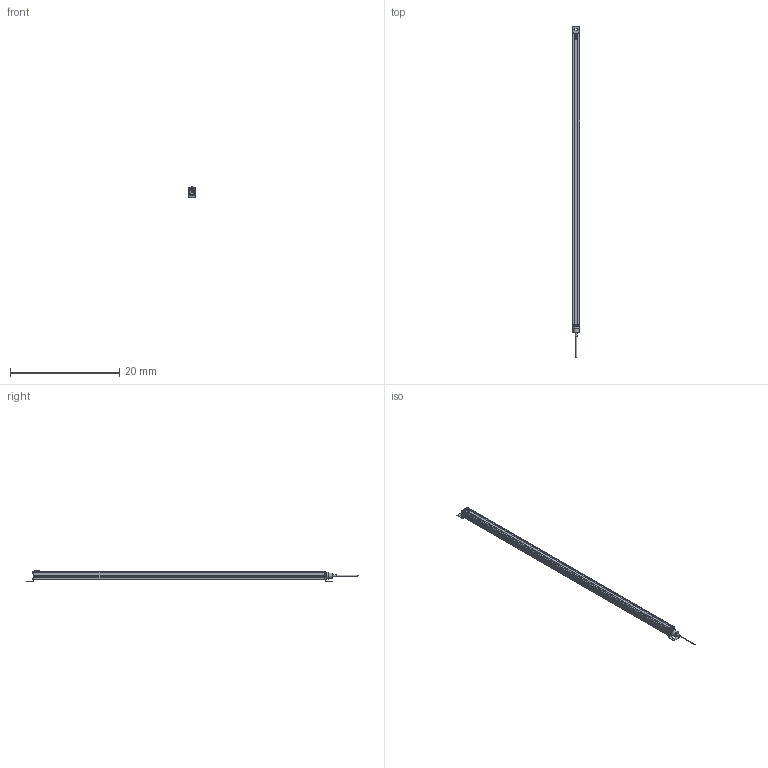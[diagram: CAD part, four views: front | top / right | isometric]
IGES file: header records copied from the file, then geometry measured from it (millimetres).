
Start section:  Autodesk DirectConnect version 7.0.27.0 ---- IGES version 5.3
Global section: file name: C:\ACADFILES\MG_PYLONS\CUSTOMER_FILES\MG-52-PYLON_3D_L.iges; native system: Autodesk DirectConnect 7.0.27.0; preprocessor: 7.0.27.0; author: ENGINEERMAIN; organization: Unknown; date: 20150810.142728; units: millimetre
Bounding box: 1.46 x 60.85 x 2.11 mm (x, y, z)
Surface area: 803.7 mm2 (no closed solid volume)
Topology: 0 solids, 0 shells, 630 faces, 3369 edges, 3383 vertices
Faces by surface type: bspline 630
